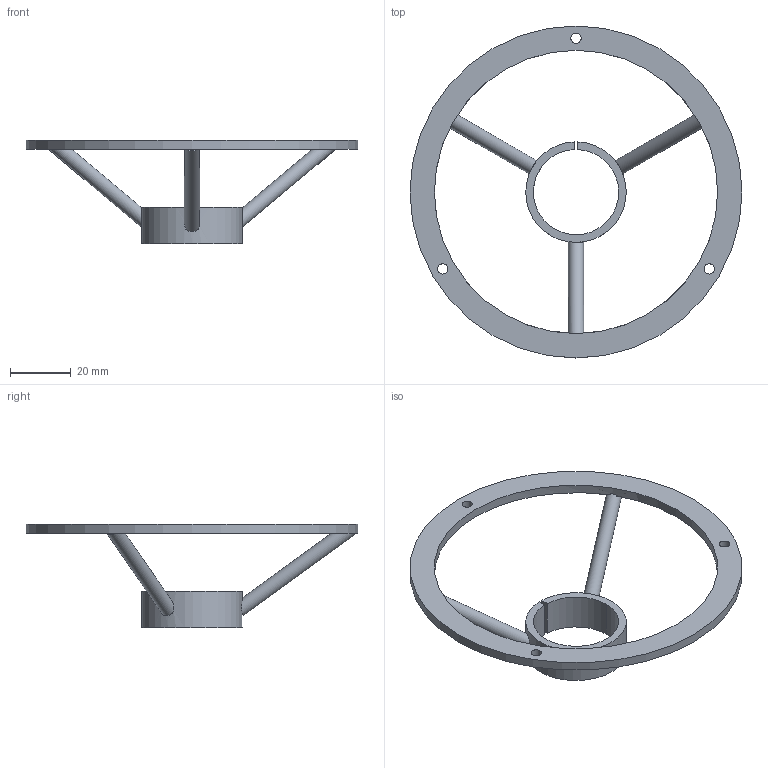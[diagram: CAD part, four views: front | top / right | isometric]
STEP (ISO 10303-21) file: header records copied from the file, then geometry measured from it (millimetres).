
FILE_DESCRIPTION(('Open CASCADE Model'),'2;1');
FILE_NAME('Open CASCADE Shape Model','2026-09-22T22:57:05',('Author'),( 'Open CASCADE'),'Open CASCADE STEP processor 7.9','Open CASCADE 7.9' ,'Unknown');
FILE_SCHEMA(('AUTOMOTIVE_DESIGN { 1 0 10303 214 1 1 1 1 }'));
Length unit declared in the file: millimetre
Products named in the file (1): Open CASCADE STEP translator 7.9 1
Bounding box: 109 x 109 x 34 mm (x, y, z)
Volume: 12807.2 mm3; surface area: 11628.5 mm2
Topology: 1 solids, 1 shells, 24 faces, 69 edges, 46 vertices
Faces by surface type: cylinder 12, plane 12
Full cylindrical faces by diameter (mm): 3.4 x3, 5 x3, 93 x1, 109 x1
Entity records: 2758 total; most frequent: CARTESIAN_POINT 1434, DIRECTION 228, ORIENTED_EDGE 138, PCURVE 138, DEFINITIONAL_REPRESENTATION 138, LINE 70, VECTOR 70, EDGE_CURVE 69
